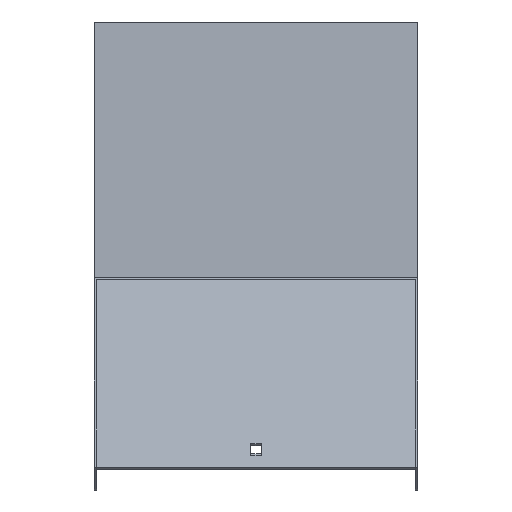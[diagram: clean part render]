
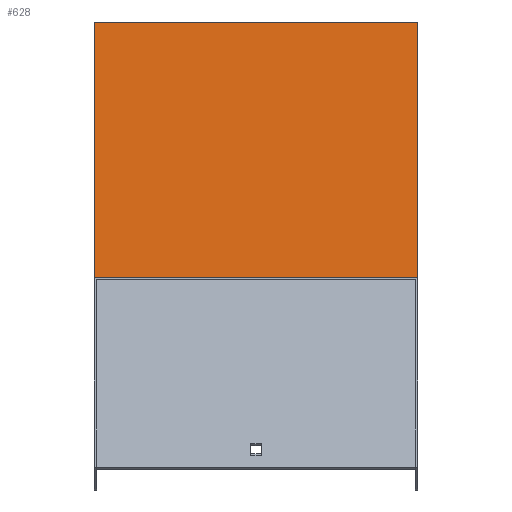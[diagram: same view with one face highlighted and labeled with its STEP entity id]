
A CAD part, top view. The second image highlights one B-rep face of the part: STEP entity #628.
In plain terms, the highlighted planar face has unit normal (0, 0.924, 0.383).
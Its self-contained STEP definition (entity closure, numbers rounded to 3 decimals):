
#5 = PLANE ( 'NONE',  #150 ) ;
#46 = VECTOR ( 'NONE', #734, 1000. ) ;
#55 = LINE ( 'NONE', #475, #46 ) ;
#65 = ORIENTED_EDGE ( 'NONE', *, *, #610, .T. ) ;
#71 = CARTESIAN_POINT ( 'NONE',  ( -101.5, 20., 168.978 ) ) ;
#72 = ORIENTED_EDGE ( 'NONE', *, *, #844, .T. ) ;
#73 = LINE ( 'NONE', #202, #746 ) ;
#88 = VECTOR ( 'NONE', #721, 1000. ) ;
#92 = ORIENTED_EDGE ( 'NONE', *, *, #639, .F. ) ;
#102 = VECTOR ( 'NONE', #105, 1000. ) ;
#105 = DIRECTION ( 'NONE',  ( -1., 0., 0. ) ) ;
#116 = VERTEX_POINT ( 'NONE', #71 ) ;
#122 = FACE_OUTER_BOUND ( 'NONE', #199, .T. ) ;
#125 = EDGE_CURVE ( 'NONE', #269, #507, #462, .T. ) ;
#133 = CARTESIAN_POINT ( 'NONE',  ( -101.5, -141.093, 557.891 ) ) ;
#138 = CARTESIAN_POINT ( 'NONE',  ( 101.5, 18.478, 172.654 ) ) ;
#150 = AXIS2_PLACEMENT_3D ( 'NONE', #138, #385, #276 ) ;
#197 = VERTEX_POINT ( 'NONE', #417 ) ;
#199 = EDGE_LOOP ( 'NONE', ( #65, #343, #92, #72 ) ) ;
#202 = CARTESIAN_POINT ( 'NONE',  ( 101.5, 18.478, 172.654 ) ) ;
#269 = VERTEX_POINT ( 'NONE', #603 ) ;
#276 = DIRECTION ( 'NONE',  ( 0., 0.383, -0.924 ) ) ;
#343 = ORIENTED_EDGE ( 'NONE', *, *, #125, .F. ) ;
#378 = CARTESIAN_POINT ( 'NONE',  ( 101.5, 20., 168.978 ) ) ;
#385 = DIRECTION ( 'NONE',  ( 0., -0.924, -0.383 ) ) ;
#417 = CARTESIAN_POINT ( 'NONE',  ( 101.5, 20., 168.978 ) ) ;
#462 = LINE ( 'NONE', #536, #88 ) ;
#475 = CARTESIAN_POINT ( 'NONE',  ( -101.5, 18.478, 172.654 ) ) ;
#507 = VERTEX_POINT ( 'NONE', #133 ) ;
#536 = CARTESIAN_POINT ( 'NONE',  ( 101.5, -141.093, 557.891 ) ) ;
#603 = CARTESIAN_POINT ( 'NONE',  ( 101.5, -141.093, 557.891 ) ) ;
#610 = EDGE_CURVE ( 'NONE', #116, #507, #55, .T. ) ;
#628 = ADVANCED_FACE ( 'NONE', ( #122 ), #5, .F. ) ;
#639 = EDGE_CURVE ( 'NONE', #197, #269, #73, .T. ) ;
#721 = DIRECTION ( 'NONE',  ( -1., 0., 0. ) ) ;
#730 = DIRECTION ( 'NONE',  ( 0., -0.383, 0.924 ) ) ;
#734 = DIRECTION ( 'NONE',  ( 0., -0.383, 0.924 ) ) ;
#746 = VECTOR ( 'NONE', #730, 1000. ) ;
#769 = LINE ( 'NONE', #378, #102 ) ;
#844 = EDGE_CURVE ( 'NONE', #197, #116, #769, .T. ) ;
